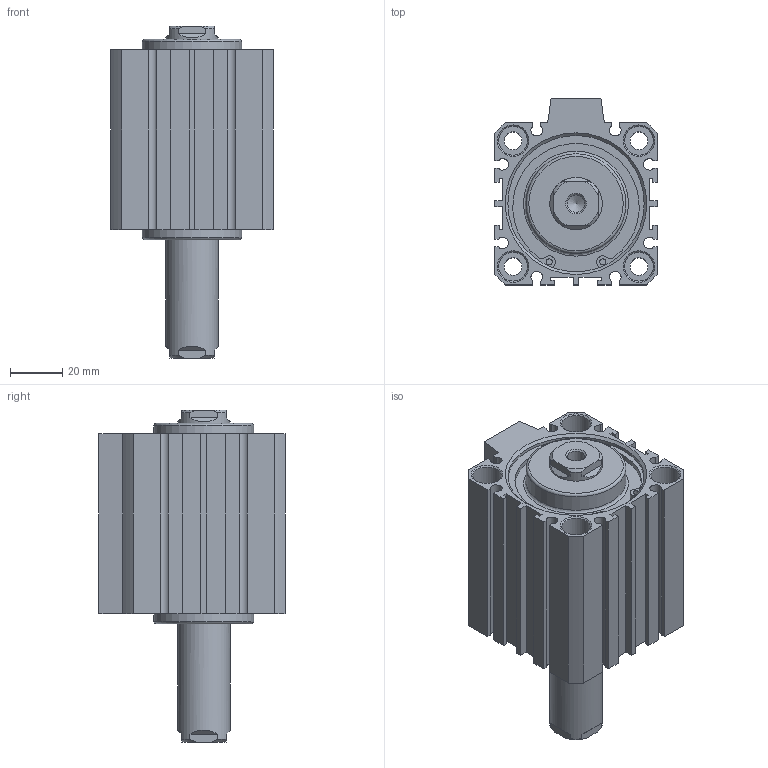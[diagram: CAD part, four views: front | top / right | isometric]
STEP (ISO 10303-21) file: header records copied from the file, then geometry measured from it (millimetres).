
FILE_DESCRIPTION((''),'2;1');
FILE_NAME('I:\3D電子目錄\氣缸\JDD\JDD\JDD50\JDD50x40.stp','2007-02-08T11:08:47',('662F206'),(''),'Autodesk Inventor 10','Autodesk Inventor 10','');
FILE_SCHEMA(('AUTOMOTIVE_DESIGN { 1 0 10303 214 1 1 1 1 }'));
Length unit declared in the file: millimetre
Products named in the file (3): JDD50; R 形環 52
Assembly tree (3 placements, depth 2):
  JDD50
    JDD50
    R 形環 52  x2
Bounding box: 62 x 71 x 126.6 mm (x, y, z)
Volume: 252812.6 mm3; surface area: 52759.6 mm2
Topology: 3 solids, 3 shells, 200 faces, 502 edges, 330 vertices
Faces by surface type: plane 116, cylinder 52, cone 24, bspline 6, torus 2
Full cylindrical faces by diameter (mm): 2.3 x4, 2.7 x2, 6.8 x4, 11 x8, 20 x2, 38 x2, 52 x4, 55 x2
Entity records: 5511 total; most frequent: CARTESIAN_POINT 1094, DIRECTION 908, ORIENTED_EDGE 824, EDGE_CURVE 412, AXIS2_PLACEMENT_3D 324, VERTEX_POINT 300, EDGE_LOOP 272, VECTOR 260
